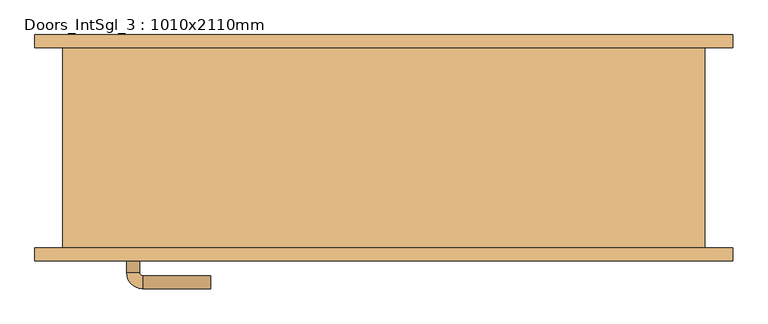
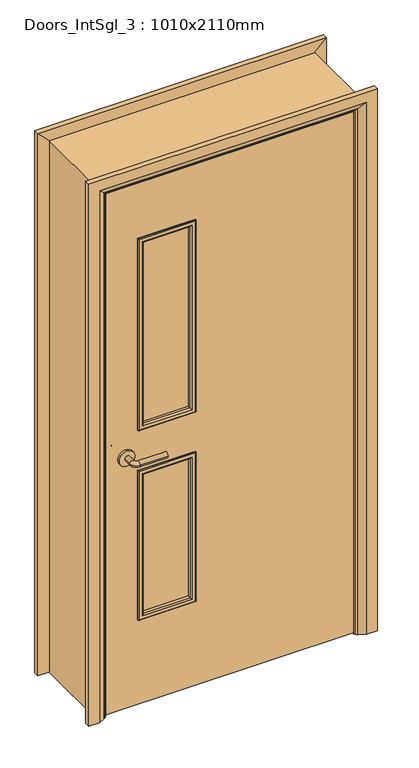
"""IFC4 building model written with IfcOpenShell, lengths in millimetres: door geometry, Doors_IntSgl_3 : 1010x2110mm."""

from ifc_helpers import new_model, si_unit, point, frame, frame_2d, origin, place, context, project, spatial, polyline, circle_curve, ellipse_curve, trimmed, segment, composite_curve, outline, extrude, faceted_brep, source, transform, mapped, element, save
from ifc_brep_helpers import plane_surface, cylinder_surface, revolved_surface, advanced_brep


def doors_intsgl_3_1010x2110mm_da69ac88(model_context):
    return source(origin(), model_context, "Body", "SolidModel", [
        advanced_brep(
        [(-398.0, -109.0, 1000.0), (-378.0, -109.0, 1000.0), (-398.0, -79.0, 1000.0), (-378.0, -79.0, 1000.0), (-373.0, -74.0, 1000.0), (-373.0, -54.0, 1000.0), (-268.0, -54.0, 1000.0), (-268.0, -74.0, 1000.0)],
        [
            (0, 1, circle_curve(frame((-388.0, -109.0, 1000.0), z_axis=(0.0, -1.0, 0.0), x_axis=(1.0, 0.0, 0.0)), 10.0)),
            (1, 0, circle_curve(frame((-388.0, -109.0, 1000.0), z_axis=(0.0, -1.0, 0.0), x_axis=(1.0, 0.0, 0.0)), 10.0)),
            (0, 2),
            (2, 3, circle_curve(frame((-388.0, -79.0, 1000.0), z_axis=(0.0, -1.0, 0.0), x_axis=(1.0, 0.0, 0.0)), 10.0)),
            (3, 1),
            (3, 2, circle_curve(frame((-388.0, -79.0, 1000.0), z_axis=(0.0, -1.0, 0.0), x_axis=(1.0, 0.0, 0.0)), 10.0)),
            (4, 3, circle_curve(frame((-373.0, -79.0, 1000.0), z_axis=(0.0, 0.0, 1.0), x_axis=(-1.0, 0.0, 0.0)), 5.0)),
            (2, 5, circle_curve(frame((-373.0, -79.0, 1000.0), z_axis=(0.0, 0.0, -1.0), x_axis=(-1.0, 0.0, 0.0)), 25.0)),
            (5, 4, circle_curve(frame((-373.0, -64.0, 1000.0), z_axis=(-1.0, 0.0, 0.0), x_axis=(0.0, -1.0, 0.0)), 10.0)),
            (4, 5, circle_curve(frame((-373.0, -64.0, 1000.0), z_axis=(-1.0, 0.0, 0.0), x_axis=(0.0, -1.0, 0.0)), 10.0)),
            (6, 7, circle_curve(frame((-268.0, -64.0, 1000.0), z_axis=(1.0, 0.0, 0.0), x_axis=(0.0, -1.0, 0.0)), 10.0)),
            (7, 6, circle_curve(frame((-268.0, -64.0, 1000.0), z_axis=(1.0, 0.0, 0.0), x_axis=(0.0, -1.0, 0.0)), 10.0)),
            (5, 6),
            (7, 4),
        ],
        [
            plane_surface(frame((-388.0, -109.0, 1000.0), z_axis=(0.0, -1.0, 0.0), x_axis=(0.0, 0.0, 1.0))),
            cylinder_surface(frame((-388.0, -109.0, 1000.0), z_axis=(0.0, -1.0, 0.0), x_axis=(1.0, 0.0, 0.0)), 10.0),
            revolved_surface(trimmed(ellipse_curve(frame((-388.0, -79.0, 1000.0), z_axis=(0.0, -1.0, 0.0), x_axis=(1.0, 0.0, 0.0)), 10.0, 10.0), [point((-398.0, -79.0, 1000.0))], [point((-378.0, -79.0, 1000.0))], True, "CARTESIAN"), (-373.0, -79.0, 1000.0), (0.0, 0.0, -1.0)),
            revolved_surface(trimmed(ellipse_curve(frame((-388.0, -79.0, 1000.0), z_axis=(0.0, -1.0, 0.0), x_axis=(1.0, 0.0, 0.0)), 10.0, 10.0), [point((-378.0, -79.0, 1000.0))], [point((-398.0, -79.0, 1000.0))], True, "CARTESIAN"), (-373.0, -79.0, 1000.0), (0.0, 0.0, -1.0)),
            plane_surface(frame((-268.0, -64.0, 1000.0), z_axis=(1.0, 0.0, 0.0), x_axis=(0.0, 0.0, 1.0))),
            cylinder_surface(frame((-373.0, -64.0, 1000.0), z_axis=(-1.0, 0.0, 0.0), x_axis=(0.0, -1.0, 0.0)), 10.0),
        ],
        [
            (0, [[1, 2]]),
            (1, [[-1, 3, 4, 5]]),
            (1, [[-2, -5, 6, -3]]),
            (2, [[7, -4, 8, 9]]),
            (3, [[-8, -6, -7, 10]]),
            (4, [[11, 12]]),
            (5, [[-9, 13, -12, 14]]),
            (5, [[-10, -14, -11, -13]]),
        ],
    ),
        extrude(outline(composite_curve([segment(trimmed(circle_curve(frame_2d((1000.0, -390.5)), 30.0), [point((1000.0, -420.5))], [point((1000.0, -360.5))], False, "CARTESIAN"), True, "CONTINUOUS"), segment(trimmed(circle_curve(frame_2d((1000.0, -390.5)), 30.0), [point((1000.0, -360.5))], [point((1000.0, -420.5))], False, "CARTESIAN"), True, "CONTINUOUS")], self_intersect=False)), frame((0.0, -117.0, 0.0), z_axis=(0.0, 1.0, 0.0), x_axis=(0.0, 0.0, 1.0)), (0.0, 0.0, 1.0), 8.0),
        advanced_brep(
        [(-398.0, -163.0, 1000.0), (-378.0, -163.0, 1000.0), (-378.0, -193.0, 1000.0), (-398.0, -193.0, 1000.0), (-373.0, -198.0, 1000.0), (-373.0, -218.0, 1000.0), (-268.0, -218.0, 1000.0), (-268.0, -198.0, 1000.0)],
        [
            (0, 1, circle_curve(frame((-388.0, -163.0, 1000.0), z_axis=(0.0, 1.0, 0.0), x_axis=(1.0, 0.0, 0.0)), 10.0)),
            (1, 0, circle_curve(frame((-388.0, -163.0, 1000.0), z_axis=(0.0, 1.0, 0.0), x_axis=(1.0, 0.0, 0.0)), 10.0)),
            (1, 2),
            (2, 3, circle_curve(frame((-388.0, -193.0, 1000.0), z_axis=(0.0, 1.0, 0.0), x_axis=(1.0, 0.0, 0.0)), 10.0)),
            (3, 0),
            (3, 2, circle_curve(frame((-388.0, -193.0, 1000.0), z_axis=(0.0, 1.0, 0.0), x_axis=(1.0, 0.0, 0.0)), 10.0)),
            (4, 5, circle_curve(frame((-373.0, -208.0, 1000.0), z_axis=(-1.0, 0.0, 0.0), x_axis=(0.0, 1.0, 0.0)), 10.0)),
            (5, 3, circle_curve(frame((-373.0, -193.0, 1000.0), z_axis=(0.0, 0.0, -1.0), x_axis=(-1.0, 0.0, 0.0)), 25.0)),
            (2, 4, circle_curve(frame((-373.0, -193.0, 1000.0), z_axis=(0.0, 0.0, 1.0), x_axis=(-1.0, 0.0, 0.0)), 5.0)),
            (5, 4, circle_curve(frame((-373.0, -208.0, 1000.0), z_axis=(-1.0, 0.0, 0.0), x_axis=(0.0, 1.0, 0.0)), 10.0)),
            (6, 7, circle_curve(frame((-268.0, -208.0, 1000.0), z_axis=(1.0, 0.0, 0.0), x_axis=(0.0, 1.0, 0.0)), 10.0)),
            (7, 6, circle_curve(frame((-268.0, -208.0, 1000.0), z_axis=(1.0, 0.0, 0.0), x_axis=(0.0, 1.0, 0.0)), 10.0)),
            (4, 7),
            (6, 5),
        ],
        [
            plane_surface(frame((-388.0, -163.0, 1000.0), z_axis=(0.0, 1.0, 0.0), x_axis=(0.0, 0.0, 1.0))),
            cylinder_surface(frame((-388.0, -163.0, 1000.0), z_axis=(0.0, 1.0, 0.0), x_axis=(1.0, 0.0, 0.0)), 10.0),
            revolved_surface(trimmed(ellipse_curve(frame((-388.0, -193.0, 1000.0), z_axis=(0.0, -1.0, 0.0), x_axis=(1.0, 0.0, 0.0)), 10.0, 10.0), [point((-398.0, -193.0, 1000.0))], [point((-378.0, -193.0, 1000.0))], True, "CARTESIAN"), (-373.0, -193.0, 1000.0), (0.0, 0.0, -1.0)),
            revolved_surface(trimmed(ellipse_curve(frame((-388.0, -193.0, 1000.0), z_axis=(0.0, -1.0, 0.0), x_axis=(1.0, 0.0, 0.0)), 10.0, 10.0), [point((-378.0, -193.0, 1000.0))], [point((-398.0, -193.0, 1000.0))], True, "CARTESIAN"), (-373.0, -193.0, 1000.0), (0.0, 0.0, -1.0)),
            plane_surface(frame((-268.0, -208.0, 1000.0), z_axis=(1.0, 0.0, 0.0), x_axis=(0.0, 0.0, 1.0))),
            cylinder_surface(frame((-373.0, -208.0, 1000.0), z_axis=(-1.0, 0.0, 0.0), x_axis=(0.0, 1.0, 0.0)), 10.0),
        ],
        [
            (0, [[1, 2]]),
            (1, [[3, 4, 5, -2]]),
            (1, [[-5, 6, -3, -1]]),
            (2, [[7, 8, -4, 9]]),
            (3, [[10, -9, -6, -8]]),
            (4, [[11, 12]]),
            (5, [[13, -11, 14, -7]]),
            (5, [[-14, -12, -13, -10]]),
        ],
    ),
        extrude(outline(composite_curve([segment(trimmed(circle_curve(frame_2d((1000.0, -390.5)), 30.0), [point((1000.0, -420.5))], [point((1000.0, -360.5))], False, "CARTESIAN"), True, "CONTINUOUS"), segment(trimmed(circle_curve(frame_2d((1000.0, -390.5)), 30.0), [point((1000.0, -360.5))], [point((1000.0, -420.5))], False, "CARTESIAN"), True, "CONTINUOUS")], self_intersect=False)), frame((0.0, -163.0, 0.0), z_axis=(0.0, 1.0, 0.0), x_axis=(0.0, 0.0, 1.0)), (0.0, 0.0, 1.0), 8.0),
        extrude(outline(polyline([(2068.0, -463.0), (8.0, -463.0), (8.0, 463.0), (2068.0, 463.0), (2068.0, -463.0)]), holes=[polyline([(1843.0, -138.0), (1100.0, -138.0), (1100.0, -338.0), (1843.0, -338.0), (1843.0, -138.0)]), polyline([(925.0, -338.0), (925.0, -138.0), (350.0, -138.0), (350.0, -338.0), (925.0, -338.0)])]), frame((0.0, -155.0, 0.0), z_axis=(0.0, 1.0, 0.0), x_axis=(0.0, 0.0, 1.0)), (0.0, 0.0, 1.0), 38.0),
        advanced_brep(
        [(540.0, -175.0, 0.0), (500.0, -175.0, 0.0), (474.0, -161.0, 0.0), (470.0, -155.0, 0.0), (540.0, -155.0, 0.0), (540.0, -155.0, 2145.0), (540.0, -175.0, 2145.0), (470.0, -155.0, 2075.0), (-470.0, -155.0, 2075.0), (-470.0, -155.0, 0.0), (-540.0, -155.0, 0.0), (-540.0, -155.0, 2145.0), (474.0, -161.0, 2079.0), (500.0, -175.0, 2105.0), (-540.0, -175.0, 2145.0), (-540.0, -175.0, 0.0), (-500.0, -175.0, 0.0), (-500.0, -175.0, 2105.0), (-474.0, -161.0, 0.0), (-474.0, -161.0, 2079.0)],
        [
            (0, 1),
            (1, 2),
            (2, 3, circle_curve(frame((478.0, -154.0, 0.0), z_axis=(0.0, 0.0, -1.0), x_axis=(1.0, 0.0, 0.0)), 8.0622577)),
            (3, 4),
            (4, 0),
            (4, 5),
            (5, 6),
            (6, 0),
            (3, 7),
            (7, 8),
            (8, 9),
            (9, 10),
            (10, 11),
            (11, 5),
            (2, 12),
            (12, 7, ellipse_curve(frame((478.0, -154.0, 2083.0), z_axis=(0.7071067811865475, 0.0, -0.7071067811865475), x_axis=(-0.7071067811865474, 0.0, -0.7071067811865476)), 11.4017543, 8.0622577)),
            (1, 13),
            (13, 12),
            (6, 14),
            (14, 15),
            (15, 16),
            (16, 17),
            (17, 13),
            (10, 15),
            (14, 11),
            (9, 18, circle_curve(frame((-478.0, -154.0, 0.0), z_axis=(0.0, 0.0, -1.0), x_axis=(-1.0, 0.0, 0.0)), 8.0622577)),
            (18, 16),
            (19, 18),
            (8, 19, ellipse_curve(frame((-478.0, -154.0, 2083.0), z_axis=(-0.7071067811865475, 0.0, -0.7071067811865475), x_axis=(-0.7071067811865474, 0.0, 0.7071067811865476)), 11.4017543, 8.0622577)),
            (19, 17),
            (12, 19),
        ],
        [
            plane_surface(frame((470.0, -155.0, 0.0), z_axis=(0.0, 0.0, -1.0), x_axis=(0.0, 1.0, 0.0))),
            plane_surface(frame((540.0, -175.0, 0.0), z_axis=(1.0, 0.0, 0.0), x_axis=(0.0, 0.0, 1.0))),
            plane_surface(frame((540.0, -155.0, 0.0), z_axis=(0.0, 1.0, 0.0), x_axis=(0.0, 0.0, 1.0))),
            cylinder_surface(frame((478.0, -154.0, 0.0), z_axis=(0.0, 0.0, -1.0), x_axis=(1.0, 0.0, 0.0)), 8.0622577),
            plane_surface(frame((474.0, -161.0, 0.0), z_axis=(-0.4740998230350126, -0.8804710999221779, 0.0), x_axis=(0.0, 0.0, 1.0))),
            plane_surface(frame((500.0, -175.0, 0.0), z_axis=(0.0, -1.0, 0.0), x_axis=(0.0, 0.0, 1.0))),
            plane_surface(frame((-540.0, -175.0, 2145.0), z_axis=(-1.0, 0.0, 0.0), x_axis=(0.0, 0.0, -1.0))),
            plane_surface(frame((-470.0, -155.0, 0.0), z_axis=(0.0, 0.0, -1.0), x_axis=(0.0, 1.0, 0.0))),
            cylinder_surface(frame((-478.0, -154.0, 2075.0), z_axis=(0.0, 0.0, 1.0), x_axis=(-1.0, 0.0, 0.0)), 8.0622577),
            plane_surface(frame((-474.0, -161.0, 2079.0), z_axis=(0.4740998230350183, -0.8804710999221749, 0.0), x_axis=(0.0, 0.0, -1.0))),
            plane_surface(frame((540.0, -175.0, 2145.0), z_axis=(0.0, 0.0, 1.0), x_axis=(-1.0, 0.0, 0.0))),
            cylinder_surface(frame((470.0, -154.0, 2083.0), z_axis=(1.0, 0.0, 0.0), x_axis=(0.0, 0.0, 1.0)), 8.0622577),
            plane_surface(frame((474.0, -161.0, 2079.0), z_axis=(0.0, -0.8804710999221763, -0.4740998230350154), x_axis=(-1.0, 0.0, 0.0))),
        ],
        [
            (0, [[1, 2, 3, 4, 5]]),
            (1, [[6, 7, 8, -5]]),
            (2, [[9, 10, 11, 12, 13, 14, -6, -4]]),
            (3, [[15, 16, -9, -3]]),
            (4, [[17, 18, -15, -2]]),
            (5, [[-8, 19, 20, 21, 22, 23, -17, -1]]),
            (6, [[-13, 24, -20, 25]]),
            (7, [[-24, -12, 26, 27, -21]]),
            (8, [[28, -26, -11, 29]]),
            (9, [[-22, -27, -28, 30]]),
            (10, [[-14, -25, -19, -7]]),
            (11, [[31, -29, -10, -16]]),
            (12, [[-23, -30, -31, -18]]),
        ],
    ),
        extrude(outline(polyline([(0.0, -446.0), (2051.0, -446.0), (2051.0, 446.0), (0.0, 446.0), (0.0, 465.0), (2070.0, 465.0), (2070.0, -465.0), (0.0, -465.0), (0.0, -446.0)])), frame((0.0, -115.0, 0.0), z_axis=(0.0, 1.0, 0.0), x_axis=(0.0, 0.0, 1.0)), (0.0, 0.0, 1.0), 32.0),
        advanced_brep(
        [(-540.0, 175.0, 0.0), (-500.0, 175.0, 0.0), (-474.0, 161.0, 0.0), (-470.0, 155.0, 0.0), (-540.0, 155.0, 0.0), (-540.0, 155.0, 2145.0), (-540.0, 175.0, 2145.0), (-470.0, 155.0, 2075.0), (-474.0, 161.0, 2079.0), (-500.0, 175.0, 2105.0), (540.0, 175.0, 0.0), (540.0, 155.0, 0.0), (470.0, 155.0, 0.0), (474.0, 161.0, 0.0), (500.0, 175.0, 0.0), (540.0, 175.0, 2145.0), (500.0, 175.0, 2105.0), (474.0, 161.0, 2079.0), (470.0, 155.0, 2075.0), (540.0, 155.0, 2145.0)],
        [
            (0, 1),
            (1, 2),
            (2, 3, circle_curve(frame((-478.0, 154.0, 0.0), z_axis=(0.0, 0.0, -1.0), x_axis=(-1.0, 0.0, 0.0)), 8.0622577)),
            (3, 4),
            (4, 0),
            (4, 5),
            (5, 6),
            (6, 0),
            (3, 7),
            (7, 5),
            (2, 8),
            (8, 7, ellipse_curve(frame((-478.0, 154.0, 2083.0), z_axis=(-0.7071067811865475, 0.0, -0.7071067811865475), x_axis=(0.7071067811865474, 0.0, -0.7071067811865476)), 11.4017543, 8.0622577)),
            (1, 9),
            (9, 8),
            (6, 9),
            (10, 11),
            (11, 12),
            (12, 13, circle_curve(frame((478.0, 154.0, 0.0), z_axis=(0.0, 0.0, -1.0), x_axis=(1.0, 0.0, 0.0)), 8.0622577)),
            (13, 14),
            (14, 10),
            (15, 10),
            (14, 16),
            (16, 15),
            (13, 17),
            (17, 16),
            (12, 18),
            (18, 17, ellipse_curve(frame((478.0, 154.0, 2083.0), z_axis=(0.7071067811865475, 0.0, -0.7071067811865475), x_axis=(0.7071067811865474, 0.0, 0.7071067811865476)), 11.4017543, 8.0622577)),
            (11, 19),
            (19, 18),
            (15, 19),
            (5, 19),
            (15, 6),
            (7, 18),
            (8, 17),
            (9, 16),
        ],
        [
            plane_surface(frame((-470.0, 227.8010989, 0.0), z_axis=(0.0, 0.0, -1.0), x_axis=(1.0, 0.0, 0.0))),
            plane_surface(frame((-540.0, 175.0, 0.0), z_axis=(-1.0, 0.0, 0.0), x_axis=(0.0, 0.0, 1.0))),
            plane_surface(frame((-540.0, 155.0, 0.0), z_axis=(0.0, -1.0, 0.0), x_axis=(0.0, 0.0, 1.0))),
            cylinder_surface(frame((-478.0, 154.0, 0.0), z_axis=(0.0, 0.0, -1.0), x_axis=(-1.0, 0.0, 0.0)), 8.0622577),
            plane_surface(frame((-474.0, 161.0, 0.0), z_axis=(0.4740998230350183, 0.8804710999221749, 0.0), x_axis=(0.0, 0.0, 1.0))),
            plane_surface(frame((-500.0, 175.0, 0.0), z_axis=(0.0, 1.0, 0.0), x_axis=(0.0, 0.0, 1.0))),
            plane_surface(frame((470.0, 227.8010989, 0.0), z_axis=(0.0, 0.0, -1.0), x_axis=(-1.0, 0.0, 0.0))),
            plane_surface(frame((500.0, 175.0, 2105.0), z_axis=(0.0, 1.0, 0.0), x_axis=(0.0, 0.0, -1.0))),
            plane_surface(frame((474.0, 161.0, 2079.0), z_axis=(-0.4740998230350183, 0.8804710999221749, 0.0), x_axis=(0.0, 0.0, -1.0))),
            cylinder_surface(frame((478.0, 154.0, 2075.0), z_axis=(0.0, 0.0, 1.0), x_axis=(1.0, 0.0, 0.0)), 8.0622577),
            plane_surface(frame((540.0, 155.0, 2145.0), z_axis=(0.0, -1.0, 0.0), x_axis=(0.0, 0.0, -1.0))),
            plane_surface(frame((540.0, 175.0, 2145.0), z_axis=(1.0, 0.0, 0.0), x_axis=(0.0, 0.0, -1.0))),
            plane_surface(frame((-540.0, 175.0, 2145.0), z_axis=(0.0, 0.0, 1.0), x_axis=(1.0, 0.0, 0.0))),
            plane_surface(frame((-540.0, 155.0, 2145.0), z_axis=(0.0, -1.0, 0.0), x_axis=(1.0, 0.0, 0.0))),
            cylinder_surface(frame((-470.0, 154.0, 2083.0), z_axis=(-1.0, 0.0, 0.0), x_axis=(0.0, 0.0, 1.0)), 8.0622577),
            plane_surface(frame((-474.0, 161.0, 2079.0), z_axis=(0.0, 0.8804710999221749, -0.4740998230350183), x_axis=(1.0, 0.0, 0.0))),
            plane_surface(frame((-500.0, 175.0, 2105.0), z_axis=(0.0, 1.0, 0.0), x_axis=(1.0, 0.0, 0.0))),
        ],
        [
            (0, [[1, 2, 3, 4, 5]]),
            (1, [[6, 7, 8, -5]]),
            (2, [[9, 10, -6, -4]]),
            (3, [[11, 12, -9, -3]]),
            (4, [[13, 14, -11, -2]]),
            (5, [[-8, 15, -13, -1]]),
            (6, [[16, 17, 18, 19, 20]]),
            (7, [[21, -20, 22, 23]]),
            (8, [[-22, -19, 24, 25]]),
            (9, [[-24, -18, 26, 27]]),
            (10, [[-26, -17, 28, 29]]),
            (11, [[-28, -16, -21, 30]]),
            (12, [[31, -30, 32, -7]]),
            (13, [[33, -29, -31, -10]]),
            (14, [[34, -27, -33, -12]]),
            (15, [[35, -25, -34, -14]]),
            (16, [[-32, -23, -35, -15]]),
        ],
    ),
        faceted_brep([(-465.0, -155.0, 0.0), (-497.0, -155.0, 0.0), (-497.0, 155.0, 0.0), (-465.0, 155.0, 0.0), (-465.0, 155.0, 2070.0), (-465.0, -155.0, 2070.0), (-497.0, 155.0, 2102.0), (-497.0, -155.0, 2102.0), (465.0, -155.0, 0.0), (465.0, 155.0, 0.0), (497.0, 155.0, 0.0), (497.0, -155.0, 0.0), (465.0, -155.0, 2070.0), (497.0, -155.0, 2102.0), (497.0, 155.0, 2102.0), (465.0, 155.0, 2070.0)], [[[0, 1, 2, 3]], [[3, 4, 5, 0]], [[2, 6, 4, 3]], [[1, 7, 6, 2]], [[0, 5, 7, 1]], [[8, 9, 10, 11]], [[12, 8, 11, 13]], [[13, 11, 10, 14]], [[14, 10, 9, 15]], [[15, 9, 8, 12]], [[4, 15, 12, 5]], [[6, 14, 15, 4]], [[7, 13, 14, 6]], [[5, 12, 13, 7]]]),
        advanced_brep(
        [(-138.0, -127.0, 925.0), (-138.0, -127.0, 350.0), (-138.0, -117.0, 350.0), (-138.0, -117.0, 925.0), (-150.0, -116.0, 913.0), (-150.0, -116.0, 362.0), (-150.0, -127.0, 362.0), (-150.0, -127.0, 913.0), (-145.0, -111.0, 918.0), (-145.0, -111.0, 357.0), (-130.0, -113.0, 933.0), (-130.0, -113.0, 342.0), (-132.0, -111.0, 344.0), (-132.0, -111.0, 931.0), (-130.0, -117.0, 933.0), (-130.0, -117.0, 342.0), (-338.0, -127.0, 350.0), (-338.0, -117.0, 350.0), (-326.0, -116.0, 362.0), (-326.0, -127.0, 362.0), (-331.0, -111.0, 357.0), (-346.0, -113.0, 342.0), (-344.0, -111.0, 344.0), (-346.0, -117.0, 342.0), (-338.0, -127.0, 925.0), (-338.0, -117.0, 925.0), (-326.0, -116.0, 913.0), (-326.0, -127.0, 913.0), (-331.0, -111.0, 918.0), (-346.0, -113.0, 933.0), (-344.0, -111.0, 931.0), (-346.0, -117.0, 933.0)],
        [
            (0, 1),
            (1, 2),
            (2, 3),
            (3, 0),
            (4, 5),
            (5, 6),
            (6, 7),
            (7, 4),
            (8, 9),
            (9, 5, ellipse_curve(frame((-145.0, -116.0, 357.0), z_axis=(0.7071067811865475, 0.0, 0.7071067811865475), x_axis=(-0.7071067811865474, 0.0, 0.7071067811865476)), 7.0710678, 5.0)),
            (4, 8, ellipse_curve(frame((-145.0, -116.0, 918.0), z_axis=(0.7071067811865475, 0.0, -0.7071067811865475), x_axis=(0.7071067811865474, 0.0, 0.7071067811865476)), 7.0710678, 5.0)),
            (10, 11),
            (11, 12, ellipse_curve(frame((-132.0, -113.0, 344.0), z_axis=(0.7071067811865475, 0.0, 0.7071067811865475), x_axis=(-0.7071067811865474, 0.0, 0.7071067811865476)), 2.8284271, 2.0)),
            (12, 13),
            (13, 10, ellipse_curve(frame((-132.0, -113.0, 931.0), z_axis=(0.7071067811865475, 0.0, -0.7071067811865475), x_axis=(0.7071067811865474, 0.0, 0.7071067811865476)), 2.8284271, 2.0)),
            (14, 15),
            (15, 11),
            (10, 14),
            (1, 16),
            (16, 17),
            (17, 2),
            (5, 18),
            (18, 19),
            (19, 6),
            (9, 20),
            (20, 18, ellipse_curve(frame((-331.0, -116.0, 357.0), z_axis=(0.7071067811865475, 0.0, -0.7071067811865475), x_axis=(0.7071067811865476, 0.0, 0.7071067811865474)), 7.0710678, 5.0)),
            (11, 21),
            (21, 22, ellipse_curve(frame((-344.0, -113.0, 344.0), z_axis=(0.7071067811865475, 0.0, -0.7071067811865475), x_axis=(0.7071067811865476, 0.0, 0.7071067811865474)), 2.8284271, 2.0)),
            (22, 12),
            (15, 23),
            (23, 21),
            (16, 24),
            (24, 25),
            (25, 17),
            (18, 26),
            (26, 27),
            (27, 19),
            (20, 28),
            (28, 26, ellipse_curve(frame((-331.0, -116.0, 918.0), z_axis=(-0.7071067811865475, 0.0, -0.7071067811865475), x_axis=(0.7071067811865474, 0.0, -0.7071067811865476)), 7.0710678, 5.0)),
            (21, 29),
            (29, 30, ellipse_curve(frame((-344.0, -113.0, 931.0), z_axis=(-0.7071067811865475, 0.0, -0.7071067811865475), x_axis=(0.7071067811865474, 0.0, -0.7071067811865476)), 2.8284271, 2.0)),
            (30, 22),
            (23, 31),
            (31, 29),
            (14, 31),
            (25, 3),
            (24, 0),
            (27, 7),
            (26, 4),
            (28, 8),
            (30, 13),
            (29, 10),
        ],
        [
            plane_surface(frame((-138.0, -117.0, 925.0), z_axis=(1.0, 0.0, 0.0), x_axis=(0.0, 0.0, -1.0))),
            plane_surface(frame((-150.0, -127.0, 913.0), z_axis=(-1.0, 0.0, 0.0), x_axis=(0.0, 0.0, -1.0))),
            cylinder_surface(frame((-145.0, -116.0, 925.0), z_axis=(0.0, 0.0, 1.0), x_axis=(1.0, 0.0, 0.0)), 5.0),
            cylinder_surface(frame((-132.0, -113.0, 925.0), z_axis=(0.0, 0.0, 1.0), x_axis=(1.0, 0.0, 0.0)), 2.0),
            plane_surface(frame((-130.0, -113.0, 933.0), z_axis=(1.0, 0.0, 0.0), x_axis=(0.0, 0.0, -1.0))),
            plane_surface(frame((-138.0, -117.0, 350.0), z_axis=(0.0, 0.0, -1.0), x_axis=(-1.0, 0.0, 0.0))),
            plane_surface(frame((-150.0, -127.0, 362.0), z_axis=(0.0, 0.0, 1.0), x_axis=(-1.0, 0.0, 0.0))),
            cylinder_surface(frame((-138.0, -116.0, 357.0), z_axis=(1.0, 0.0, 0.0), x_axis=(0.0, 0.0, -1.0)), 5.0),
            cylinder_surface(frame((-138.0, -113.0, 344.0), z_axis=(1.0, 0.0, 0.0), x_axis=(0.0, 0.0, -1.0)), 2.0),
            plane_surface(frame((-130.0, -113.0, 342.0), z_axis=(0.0, 0.0, -1.0), x_axis=(-1.0, 0.0, 0.0))),
            plane_surface(frame((-338.0, -117.0, 350.0), z_axis=(-1.0, 0.0, 0.0), x_axis=(0.0, 0.0, 1.0))),
            plane_surface(frame((-326.0, -127.0, 362.0), z_axis=(1.0, 0.0, 0.0), x_axis=(0.0, 0.0, 1.0))),
            cylinder_surface(frame((-331.0, -116.0, 350.0), z_axis=(0.0, 0.0, -1.0), x_axis=(-1.0, 0.0, 0.0)), 5.0),
            cylinder_surface(frame((-344.0, -113.0, 350.0), z_axis=(0.0, 0.0, -1.0), x_axis=(-1.0, 0.0, 0.0)), 2.0),
            plane_surface(frame((-346.0, -113.0, 342.0), z_axis=(-1.0, 0.0, 0.0), x_axis=(0.0, 0.0, 1.0))),
            plane_surface(frame((-346.0, -117.0, 933.0), z_axis=(0.0, -1.0, 0.0), x_axis=(1.0, 0.0, 0.0))),
            plane_surface(frame((-338.0, -117.0, 925.0), z_axis=(0.0, 0.0, 1.0), x_axis=(1.0, 0.0, 0.0))),
            plane_surface(frame((-338.0, -127.0, 925.0), z_axis=(0.0, -1.0, 0.0), x_axis=(1.0, 0.0, 0.0))),
            plane_surface(frame((-326.0, -127.0, 913.0), z_axis=(0.0, 0.0, -1.0), x_axis=(1.0, 0.0, 0.0))),
            cylinder_surface(frame((-338.0, -116.0, 918.0), z_axis=(-1.0, 0.0, 0.0), x_axis=(0.0, 0.0, 1.0)), 5.0),
            plane_surface(frame((-331.0, -111.0, 918.0), z_axis=(0.0, 1.0, 0.0), x_axis=(1.0, 0.0, 0.0))),
            cylinder_surface(frame((-338.0, -113.0, 931.0), z_axis=(-1.0, 0.0, 0.0), x_axis=(0.0, 0.0, 1.0)), 2.0),
            plane_surface(frame((-346.0, -113.0, 933.0), z_axis=(0.0, 0.0, 1.0), x_axis=(1.0, 0.0, 0.0))),
        ],
        [
            (0, [[1, 2, 3, 4]]),
            (1, [[5, 6, 7, 8]]),
            (2, [[9, 10, -5, 11]]),
            (3, [[12, 13, 14, 15]]),
            (4, [[16, 17, -12, 18]]),
            (5, [[19, 20, 21, -2]]),
            (6, [[22, 23, 24, -6]]),
            (7, [[25, 26, -22, -10]]),
            (8, [[27, 28, 29, -13]]),
            (9, [[30, 31, -27, -17]]),
            (10, [[32, 33, 34, -20]]),
            (11, [[35, 36, 37, -23]]),
            (12, [[38, 39, -35, -26]]),
            (13, [[40, 41, 42, -28]]),
            (14, [[43, 44, -40, -31]]),
            (15, [[-16, 45, -43, -30], [-3, -21, -34, 46]]),
            (16, [[47, -4, -46, -33]]),
            (17, [[-1, -47, -32, -19], [-7, -24, -37, 48]]),
            (18, [[49, -8, -48, -36]]),
            (19, [[50, -11, -49, -39]]),
            (20, [[-14, -29, -42, 51], [-9, -50, -38, -25]]),
            (21, [[52, -15, -51, -41]]),
            (22, [[-45, -18, -52, -44]]),
        ],
    ),
        advanced_brep(
        [(-338.0, -145.0, 925.0), (-338.0, -145.0, 350.0), (-338.0, -155.0, 350.0), (-338.0, -155.0, 925.0), (-326.0, -156.0, 913.0), (-326.0, -156.0, 362.0), (-326.0, -145.0, 362.0), (-326.0, -145.0, 913.0), (-331.0, -161.0, 918.0), (-331.0, -161.0, 357.0), (-346.0, -159.0, 933.0), (-346.0, -159.0, 342.0), (-344.0, -161.0, 344.0), (-344.0, -161.0, 931.0), (-346.0, -155.0, 933.0), (-346.0, -155.0, 342.0), (-138.0, -145.0, 350.0), (-138.0, -155.0, 350.0), (-150.0, -156.0, 362.0), (-150.0, -145.0, 362.0), (-145.0, -161.0, 357.0), (-130.0, -159.0, 342.0), (-132.0, -161.0, 344.0), (-130.0, -155.0, 342.0), (-138.0, -145.0, 925.0), (-138.0, -155.0, 925.0), (-150.0, -156.0, 913.0), (-150.0, -145.0, 913.0), (-145.0, -161.0, 918.0), (-130.0, -159.0, 933.0), (-132.0, -161.0, 931.0), (-130.0, -155.0, 933.0)],
        [
            (0, 1),
            (1, 2),
            (2, 3),
            (3, 0),
            (4, 5),
            (5, 6),
            (6, 7),
            (7, 4),
            (8, 9),
            (9, 5, ellipse_curve(frame((-331.0, -156.0, 357.0), z_axis=(-0.7071067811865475, 0.0, 0.7071067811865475), x_axis=(0.7071067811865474, 0.0, 0.7071067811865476)), 7.0710678, 5.0)),
            (4, 8, ellipse_curve(frame((-331.0, -156.0, 918.0), z_axis=(-0.7071067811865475, 0.0, -0.7071067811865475), x_axis=(-0.7071067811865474, 0.0, 0.7071067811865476)), 7.0710678, 5.0)),
            (10, 11),
            (11, 12, ellipse_curve(frame((-344.0, -159.0, 344.0), z_axis=(-0.7071067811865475, 0.0, 0.7071067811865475), x_axis=(0.7071067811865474, 0.0, 0.7071067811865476)), 2.8284271, 2.0)),
            (12, 13),
            (13, 10, ellipse_curve(frame((-344.0, -159.0, 931.0), z_axis=(-0.7071067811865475, 0.0, -0.7071067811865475), x_axis=(-0.7071067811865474, 0.0, 0.7071067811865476)), 2.8284271, 2.0)),
            (14, 15),
            (15, 11),
            (10, 14),
            (1, 16),
            (16, 17),
            (17, 2),
            (5, 18),
            (18, 19),
            (19, 6),
            (9, 20),
            (20, 18, ellipse_curve(frame((-145.0, -156.0, 357.0), z_axis=(-0.7071067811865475, 0.0, -0.7071067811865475), x_axis=(-0.7071067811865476, 0.0, 0.7071067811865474)), 7.0710678, 5.0)),
            (11, 21),
            (21, 22, ellipse_curve(frame((-132.0, -159.0, 344.0), z_axis=(-0.7071067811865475, 0.0, -0.7071067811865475), x_axis=(-0.7071067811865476, 0.0, 0.7071067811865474)), 2.8284271, 2.0)),
            (22, 12),
            (15, 23),
            (23, 21),
            (16, 24),
            (24, 25),
            (25, 17),
            (18, 26),
            (26, 27),
            (27, 19),
            (20, 28),
            (28, 26, ellipse_curve(frame((-145.0, -156.0, 918.0), z_axis=(0.7071067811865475, 0.0, -0.7071067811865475), x_axis=(-0.7071067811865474, 0.0, -0.7071067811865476)), 7.0710678, 5.0)),
            (21, 29),
            (29, 30, ellipse_curve(frame((-132.0, -159.0, 931.0), z_axis=(0.7071067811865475, 0.0, -0.7071067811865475), x_axis=(-0.7071067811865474, 0.0, -0.7071067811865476)), 2.8284271, 2.0)),
            (30, 22),
            (23, 31),
            (31, 29),
            (14, 31),
            (25, 3),
            (24, 0),
            (27, 7),
            (26, 4),
            (28, 8),
            (30, 13),
            (29, 10),
        ],
        [
            plane_surface(frame((-338.0, -155.0, 925.0), z_axis=(-1.0, 0.0, 0.0), x_axis=(0.0, 0.0, -1.0))),
            plane_surface(frame((-326.0, -145.0, 913.0), z_axis=(1.0, 0.0, 0.0), x_axis=(0.0, 0.0, -1.0))),
            cylinder_surface(frame((-331.0, -156.0, 925.0), z_axis=(0.0, 0.0, 1.0), x_axis=(-1.0, 0.0, 0.0)), 5.0),
            cylinder_surface(frame((-344.0, -159.0, 925.0), z_axis=(0.0, 0.0, 1.0), x_axis=(-1.0, 0.0, 0.0)), 2.0),
            plane_surface(frame((-346.0, -159.0, 933.0), z_axis=(-1.0, 0.0, 0.0), x_axis=(0.0, 0.0, -1.0))),
            plane_surface(frame((-338.0, -155.0, 350.0), z_axis=(0.0, 0.0, -1.0), x_axis=(1.0, 0.0, 0.0))),
            plane_surface(frame((-326.0, -145.0, 362.0), z_axis=(0.0, 0.0, 1.0), x_axis=(1.0, 0.0, 0.0))),
            cylinder_surface(frame((-338.0, -156.0, 357.0), z_axis=(-1.0, 0.0, 0.0), x_axis=(0.0, 0.0, -1.0)), 5.0),
            cylinder_surface(frame((-338.0, -159.0, 344.0), z_axis=(-1.0, 0.0, 0.0), x_axis=(0.0, 0.0, -1.0)), 2.0),
            plane_surface(frame((-346.0, -159.0, 342.0), z_axis=(0.0, 0.0, -1.0), x_axis=(1.0, 0.0, 0.0))),
            plane_surface(frame((-138.0, -155.0, 350.0), z_axis=(1.0, 0.0, 0.0), x_axis=(0.0, 0.0, 1.0))),
            plane_surface(frame((-150.0, -145.0, 362.0), z_axis=(-1.0, 0.0, 0.0), x_axis=(0.0, 0.0, 1.0))),
            cylinder_surface(frame((-145.0, -156.0, 350.0), z_axis=(0.0, 0.0, -1.0), x_axis=(1.0, 0.0, 0.0)), 5.0),
            cylinder_surface(frame((-132.0, -159.0, 350.0), z_axis=(0.0, 0.0, -1.0), x_axis=(1.0, 0.0, 0.0)), 2.0),
            plane_surface(frame((-130.0, -159.0, 342.0), z_axis=(1.0, 0.0, 0.0), x_axis=(0.0, 0.0, 1.0))),
            plane_surface(frame((-130.0, -155.0, 933.0), z_axis=(0.0, 1.0, 0.0), x_axis=(-1.0, 0.0, 0.0))),
            plane_surface(frame((-138.0, -155.0, 925.0), z_axis=(0.0, 0.0, 1.0), x_axis=(-1.0, 0.0, 0.0))),
            plane_surface(frame((-138.0, -145.0, 925.0), z_axis=(0.0, 1.0, 0.0), x_axis=(-1.0, 0.0, 0.0))),
            plane_surface(frame((-150.0, -145.0, 913.0), z_axis=(0.0, 0.0, -1.0), x_axis=(-1.0, 0.0, 0.0))),
            cylinder_surface(frame((-138.0, -156.0, 918.0), z_axis=(1.0, 0.0, 0.0), x_axis=(0.0, 0.0, 1.0)), 5.0),
            plane_surface(frame((-145.0, -161.0, 918.0), z_axis=(0.0, -1.0, 0.0), x_axis=(-1.0, 0.0, 0.0))),
            cylinder_surface(frame((-138.0, -159.0, 931.0), z_axis=(1.0, 0.0, 0.0), x_axis=(0.0, 0.0, 1.0)), 2.0),
            plane_surface(frame((-130.0, -159.0, 933.0), z_axis=(0.0, 0.0, 1.0), x_axis=(-1.0, 0.0, 0.0))),
        ],
        [
            (0, [[1, 2, 3, 4]]),
            (1, [[5, 6, 7, 8]]),
            (2, [[9, 10, -5, 11]]),
            (3, [[12, 13, 14, 15]]),
            (4, [[16, 17, -12, 18]]),
            (5, [[19, 20, 21, -2]]),
            (6, [[22, 23, 24, -6]]),
            (7, [[25, 26, -22, -10]]),
            (8, [[27, 28, 29, -13]]),
            (9, [[30, 31, -27, -17]]),
            (10, [[32, 33, 34, -20]]),
            (11, [[35, 36, 37, -23]]),
            (12, [[38, 39, -35, -26]]),
            (13, [[40, 41, 42, -28]]),
            (14, [[43, 44, -40, -31]]),
            (15, [[-16, 45, -43, -30], [-3, -21, -34, 46]]),
            (16, [[47, -4, -46, -33]]),
            (17, [[-1, -47, -32, -19], [-7, -24, -37, 48]]),
            (18, [[49, -8, -48, -36]]),
            (19, [[50, -11, -49, -39]]),
            (20, [[-14, -29, -42, 51], [-9, -50, -38, -25]]),
            (21, [[52, -15, -51, -41]]),
            (22, [[-45, -18, -52, -44]]),
        ],
    ),
        extrude(outline(polyline([(-338.0, -145.0), (-338.0, -127.0), (-138.0, -127.0), (-138.0, -145.0), (-338.0, -145.0)])), frame((0.0, 0.0, 1100.0), z_axis=(0.0, 0.0, 1.0), x_axis=(1.0, 0.0, 0.0)), (0.0, 0.0, 1.0), 743.0),
        extrude(outline(polyline([(-338.0, -145.0), (-338.0, -127.0), (-138.0, -127.0), (-138.0, -145.0), (-338.0, -145.0)])), frame((0.0, 0.0, 350.0), z_axis=(0.0, 0.0, 1.0), x_axis=(1.0, 0.0, 0.0)), (0.0, 0.0, 1.0), 575.0),
        advanced_brep(
        [(-138.0, -127.0, 1843.0), (-138.0, -127.0, 1100.0), (-138.0, -117.0, 1100.0), (-138.0, -117.0, 1843.0), (-150.0, -116.0, 1831.0), (-150.0, -116.0, 1112.0), (-150.0, -127.0, 1112.0), (-150.0, -127.0, 1831.0), (-145.0, -111.0, 1836.0), (-145.0, -111.0, 1107.0), (-130.0, -113.0, 1851.0), (-130.0, -113.0, 1092.0), (-132.0, -111.0, 1094.0), (-132.0, -111.0, 1849.0), (-130.0, -117.0, 1851.0), (-130.0, -117.0, 1092.0), (-338.0, -127.0, 1100.0), (-338.0, -117.0, 1100.0), (-326.0, -116.0, 1112.0), (-326.0, -127.0, 1112.0), (-331.0, -111.0, 1107.0), (-346.0, -113.0, 1092.0), (-344.0, -111.0, 1094.0), (-346.0, -117.0, 1092.0), (-338.0, -127.0, 1843.0), (-338.0, -117.0, 1843.0), (-326.0, -116.0, 1831.0), (-326.0, -127.0, 1831.0), (-331.0, -111.0, 1836.0), (-346.0, -113.0, 1851.0), (-344.0, -111.0, 1849.0), (-346.0, -117.0, 1851.0)],
        [
            (0, 1),
            (1, 2),
            (2, 3),
            (3, 0),
            (4, 5),
            (5, 6),
            (6, 7),
            (7, 4),
            (8, 9),
            (9, 5, ellipse_curve(frame((-145.0, -116.0, 1107.0), z_axis=(0.7071067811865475, 0.0, 0.7071067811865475), x_axis=(-0.7071067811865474, 0.0, 0.7071067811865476)), 7.0710678, 5.0)),
            (4, 8, ellipse_curve(frame((-145.0, -116.0, 1836.0), z_axis=(0.7071067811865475, 0.0, -0.7071067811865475), x_axis=(0.7071067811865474, 0.0, 0.7071067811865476)), 7.0710678, 5.0)),
            (10, 11),
            (11, 12, ellipse_curve(frame((-132.0, -113.0, 1094.0), z_axis=(0.7071067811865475, 0.0, 0.7071067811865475), x_axis=(-0.7071067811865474, 0.0, 0.7071067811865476)), 2.8284271, 2.0)),
            (12, 13),
            (13, 10, ellipse_curve(frame((-132.0, -113.0, 1849.0), z_axis=(0.7071067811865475, 0.0, -0.7071067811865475), x_axis=(0.7071067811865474, 0.0, 0.7071067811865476)), 2.8284271, 2.0)),
            (14, 15),
            (15, 11),
            (10, 14),
            (1, 16),
            (16, 17),
            (17, 2),
            (5, 18),
            (18, 19),
            (19, 6),
            (9, 20),
            (20, 18, ellipse_curve(frame((-331.0, -116.0, 1107.0), z_axis=(0.7071067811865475, 0.0, -0.7071067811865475), x_axis=(0.7071067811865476, 0.0, 0.7071067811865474)), 7.0710678, 5.0)),
            (11, 21),
            (21, 22, ellipse_curve(frame((-344.0, -113.0, 1094.0), z_axis=(0.7071067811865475, 0.0, -0.7071067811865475), x_axis=(0.7071067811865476, 0.0, 0.7071067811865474)), 2.8284271, 2.0)),
            (22, 12),
            (15, 23),
            (23, 21),
            (16, 24),
            (24, 25),
            (25, 17),
            (18, 26),
            (26, 27),
            (27, 19),
            (20, 28),
            (28, 26, ellipse_curve(frame((-331.0, -116.0, 1836.0), z_axis=(-0.7071067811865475, 0.0, -0.7071067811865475), x_axis=(0.7071067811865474, 0.0, -0.7071067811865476)), 7.0710678, 5.0)),
            (21, 29),
            (29, 30, ellipse_curve(frame((-344.0, -113.0, 1849.0), z_axis=(-0.7071067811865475, 0.0, -0.7071067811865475), x_axis=(0.7071067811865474, 0.0, -0.7071067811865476)), 2.8284271, 2.0)),
            (30, 22),
            (23, 31),
            (31, 29),
            (14, 31),
            (25, 3),
            (24, 0),
            (27, 7),
            (26, 4),
            (28, 8),
            (30, 13),
            (29, 10),
        ],
        [
            plane_surface(frame((-138.0, -117.0, 1843.0), z_axis=(1.0, 0.0, 0.0), x_axis=(0.0, 0.0, -1.0))),
            plane_surface(frame((-150.0, -127.0, 1831.0), z_axis=(-1.0, 0.0, 0.0), x_axis=(0.0, 0.0, -1.0))),
            cylinder_surface(frame((-145.0, -116.0, 1843.0), z_axis=(0.0, 0.0, 1.0), x_axis=(1.0, 0.0, 0.0)), 5.0),
            cylinder_surface(frame((-132.0, -113.0, 1843.0), z_axis=(0.0, 0.0, 1.0), x_axis=(1.0, 0.0, 0.0)), 2.0),
            plane_surface(frame((-130.0, -113.0, 1851.0), z_axis=(1.0, 0.0, 0.0), x_axis=(0.0, 0.0, -1.0))),
            plane_surface(frame((-138.0, -117.0, 1100.0), z_axis=(0.0, 0.0, -1.0), x_axis=(-1.0, 0.0, 0.0))),
            plane_surface(frame((-150.0, -127.0, 1112.0), z_axis=(0.0, 0.0, 1.0), x_axis=(-1.0, 0.0, 0.0))),
            cylinder_surface(frame((-138.0, -116.0, 1107.0), z_axis=(1.0, 0.0, 0.0), x_axis=(0.0, 0.0, -1.0)), 5.0),
            cylinder_surface(frame((-138.0, -113.0, 1094.0), z_axis=(1.0, 0.0, 0.0), x_axis=(0.0, 0.0, -1.0)), 2.0),
            plane_surface(frame((-130.0, -113.0, 1092.0), z_axis=(0.0, 0.0, -1.0), x_axis=(-1.0, 0.0, 0.0))),
            plane_surface(frame((-338.0, -117.0, 1100.0), z_axis=(-1.0, 0.0, 0.0), x_axis=(0.0, 0.0, 1.0))),
            plane_surface(frame((-326.0, -127.0, 1112.0), z_axis=(1.0, 0.0, 0.0), x_axis=(0.0, 0.0, 1.0))),
            cylinder_surface(frame((-331.0, -116.0, 1100.0), z_axis=(0.0, 0.0, -1.0), x_axis=(-1.0, 0.0, 0.0)), 5.0),
            cylinder_surface(frame((-344.0, -113.0, 1100.0), z_axis=(0.0, 0.0, -1.0), x_axis=(-1.0, 0.0, 0.0)), 2.0),
            plane_surface(frame((-346.0, -113.0, 1092.0), z_axis=(-1.0, 0.0, 0.0), x_axis=(0.0, 0.0, 1.0))),
            plane_surface(frame((-346.0, -117.0, 1851.0), z_axis=(0.0, -1.0, 0.0), x_axis=(1.0, 0.0, 0.0))),
            plane_surface(frame((-338.0, -117.0, 1843.0), z_axis=(0.0, 0.0, 1.0), x_axis=(1.0, 0.0, 0.0))),
            plane_surface(frame((-338.0, -127.0, 1843.0), z_axis=(0.0, -1.0, 0.0), x_axis=(1.0, 0.0, 0.0))),
            plane_surface(frame((-326.0, -127.0, 1831.0), z_axis=(0.0, 0.0, -1.0), x_axis=(1.0, 0.0, 0.0))),
            cylinder_surface(frame((-338.0, -116.0, 1836.0), z_axis=(-1.0, 0.0, 0.0), x_axis=(0.0, 0.0, 1.0)), 5.0),
            plane_surface(frame((-331.0, -111.0, 1836.0), z_axis=(0.0, 1.0, 0.0), x_axis=(1.0, 0.0, 0.0))),
            cylinder_surface(frame((-338.0, -113.0, 1849.0), z_axis=(-1.0, 0.0, 0.0), x_axis=(0.0, 0.0, 1.0)), 2.0),
            plane_surface(frame((-346.0, -113.0, 1851.0), z_axis=(0.0, 0.0, 1.0), x_axis=(1.0, 0.0, 0.0))),
        ],
        [
            (0, [[1, 2, 3, 4]]),
            (1, [[5, 6, 7, 8]]),
            (2, [[9, 10, -5, 11]]),
            (3, [[12, 13, 14, 15]]),
            (4, [[16, 17, -12, 18]]),
            (5, [[19, 20, 21, -2]]),
            (6, [[22, 23, 24, -6]]),
            (7, [[25, 26, -22, -10]]),
            (8, [[27, 28, 29, -13]]),
            (9, [[30, 31, -27, -17]]),
            (10, [[32, 33, 34, -20]]),
            (11, [[35, 36, 37, -23]]),
            (12, [[38, 39, -35, -26]]),
            (13, [[40, 41, 42, -28]]),
            (14, [[43, 44, -40, -31]]),
            (15, [[-16, 45, -43, -30], [-3, -21, -34, 46]]),
            (16, [[47, -4, -46, -33]]),
            (17, [[-1, -47, -32, -19], [-7, -24, -37, 48]]),
            (18, [[49, -8, -48, -36]]),
            (19, [[50, -11, -49, -39]]),
            (20, [[-14, -29, -42, 51], [-9, -50, -38, -25]]),
            (21, [[52, -15, -51, -41]]),
            (22, [[-45, -18, -52, -44]]),
        ],
    ),
        advanced_brep(
        [(-130.0, -159.0, 1851.0), (-130.0, -159.0, 1092.0), (-130.0, -155.0, 1092.0), (-130.0, -155.0, 1851.0), (-132.0, -161.0, 1849.0), (-132.0, -161.0, 1094.0), (-150.0, -156.0, 1831.0), (-150.0, -156.0, 1112.0), (-145.0, -161.0, 1107.0), (-145.0, -161.0, 1836.0), (-150.0, -145.0, 1831.0), (-150.0, -145.0, 1112.0), (-138.0, -155.0, 1843.0), (-138.0, -155.0, 1100.0), (-138.0, -145.0, 1100.0), (-138.0, -145.0, 1843.0), (-346.0, -159.0, 1092.0), (-346.0, -155.0, 1092.0), (-344.0, -161.0, 1094.0), (-326.0, -156.0, 1112.0), (-331.0, -161.0, 1107.0), (-326.0, -145.0, 1112.0), (-338.0, -155.0, 1100.0), (-338.0, -145.0, 1100.0), (-346.0, -159.0, 1851.0), (-346.0, -155.0, 1851.0), (-344.0, -161.0, 1849.0), (-326.0, -156.0, 1831.0), (-331.0, -161.0, 1836.0), (-326.0, -145.0, 1831.0), (-338.0, -155.0, 1843.0), (-338.0, -145.0, 1843.0)],
        [
            (0, 1),
            (1, 2),
            (2, 3),
            (3, 0),
            (4, 5),
            (5, 1, ellipse_curve(frame((-132.0, -159.0, 1094.0), z_axis=(0.7071067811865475, 0.0, 0.7071067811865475), x_axis=(-0.7071067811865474, 0.0, 0.7071067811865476)), 2.8284271, 2.0)),
            (0, 4, ellipse_curve(frame((-132.0, -159.0, 1849.0), z_axis=(0.7071067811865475, 0.0, -0.7071067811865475), x_axis=(0.7071067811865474, 0.0, 0.7071067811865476)), 2.8284271, 2.0)),
            (6, 7),
            (7, 8, ellipse_curve(frame((-145.0, -156.0, 1107.0), z_axis=(0.7071067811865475, 0.0, 0.7071067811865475), x_axis=(-0.7071067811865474, 0.0, 0.7071067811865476)), 7.0710678, 5.0)),
            (8, 9),
            (9, 6, ellipse_curve(frame((-145.0, -156.0, 1836.0), z_axis=(0.7071067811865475, 0.0, -0.7071067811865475), x_axis=(0.7071067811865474, 0.0, 0.7071067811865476)), 7.0710678, 5.0)),
            (10, 11),
            (11, 7),
            (6, 10),
            (12, 13),
            (13, 14),
            (14, 15),
            (15, 12),
            (1, 16),
            (16, 17),
            (17, 2),
            (5, 18),
            (18, 16, ellipse_curve(frame((-344.0, -159.0, 1094.0), z_axis=(0.7071067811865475, 0.0, -0.7071067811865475), x_axis=(0.7071067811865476, 0.0, 0.7071067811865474)), 2.8284271, 2.0)),
            (7, 19),
            (19, 20, ellipse_curve(frame((-331.0, -156.0, 1107.0), z_axis=(0.7071067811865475, 0.0, -0.7071067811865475), x_axis=(0.7071067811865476, 0.0, 0.7071067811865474)), 7.0710678, 5.0)),
            (20, 8),
            (11, 21),
            (21, 19),
            (13, 22),
            (22, 23),
            (23, 14),
            (16, 24),
            (24, 25),
            (25, 17),
            (18, 26),
            (26, 24, ellipse_curve(frame((-344.0, -159.0, 1849.0), z_axis=(-0.7071067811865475, 0.0, -0.7071067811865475), x_axis=(0.7071067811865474, 0.0, -0.7071067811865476)), 2.8284271, 2.0)),
            (19, 27),
            (27, 28, ellipse_curve(frame((-331.0, -156.0, 1836.0), z_axis=(-0.7071067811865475, 0.0, -0.7071067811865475), x_axis=(0.7071067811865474, 0.0, -0.7071067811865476)), 7.0710678, 5.0)),
            (28, 20),
            (21, 29),
            (29, 27),
            (22, 30),
            (30, 31),
            (31, 23),
            (24, 0),
            (3, 25),
            (26, 4),
            (28, 9),
            (27, 6),
            (29, 10),
            (31, 15),
            (30, 12),
        ],
        [
            plane_surface(frame((-130.0, -155.0, 1851.0), z_axis=(1.0, 0.0, 0.0), x_axis=(0.0, 0.0, -1.0))),
            cylinder_surface(frame((-132.0, -159.0, 1843.0), z_axis=(0.0, 0.0, 1.0), x_axis=(1.0, 0.0, 0.0)), 2.0),
            cylinder_surface(frame((-145.0, -156.0, 1843.0), z_axis=(0.0, 0.0, 1.0), x_axis=(1.0, 0.0, 0.0)), 5.0),
            plane_surface(frame((-150.0, -156.0, 1831.0), z_axis=(-1.0, 0.0, 0.0), x_axis=(0.0, 0.0, -1.0))),
            plane_surface(frame((-138.0, -145.0, 1843.0), z_axis=(1.0, 0.0, 0.0), x_axis=(0.0, 0.0, -1.0))),
            plane_surface(frame((-130.0, -155.0, 1092.0), z_axis=(0.0, 0.0, -1.0), x_axis=(-1.0, 0.0, 0.0))),
            cylinder_surface(frame((-138.0, -159.0, 1094.0), z_axis=(1.0, 0.0, 0.0), x_axis=(0.0, 0.0, -1.0)), 2.0),
            cylinder_surface(frame((-138.0, -156.0, 1107.0), z_axis=(1.0, 0.0, 0.0), x_axis=(0.0, 0.0, -1.0)), 5.0),
            plane_surface(frame((-150.0, -156.0, 1112.0), z_axis=(0.0, 0.0, 1.0), x_axis=(-1.0, 0.0, 0.0))),
            plane_surface(frame((-138.0, -145.0, 1100.0), z_axis=(0.0, 0.0, -1.0), x_axis=(-1.0, 0.0, 0.0))),
            plane_surface(frame((-346.0, -155.0, 1092.0), z_axis=(-1.0, 0.0, 0.0), x_axis=(0.0, 0.0, 1.0))),
            cylinder_surface(frame((-344.0, -159.0, 1100.0), z_axis=(0.0, 0.0, -1.0), x_axis=(-1.0, 0.0, 0.0)), 2.0),
            cylinder_surface(frame((-331.0, -156.0, 1100.0), z_axis=(0.0, 0.0, -1.0), x_axis=(-1.0, 0.0, 0.0)), 5.0),
            plane_surface(frame((-326.0, -156.0, 1112.0), z_axis=(1.0, 0.0, 0.0), x_axis=(0.0, 0.0, 1.0))),
            plane_surface(frame((-338.0, -145.0, 1100.0), z_axis=(-1.0, 0.0, 0.0), x_axis=(0.0, 0.0, 1.0))),
            plane_surface(frame((-346.0, -155.0, 1851.0), z_axis=(0.0, 0.0, 1.0), x_axis=(1.0, 0.0, 0.0))),
            cylinder_surface(frame((-338.0, -159.0, 1849.0), z_axis=(-1.0, 0.0, 0.0), x_axis=(0.0, 0.0, 1.0)), 2.0),
            plane_surface(frame((-344.0, -161.0, 1849.0), z_axis=(0.0, -1.0, 0.0), x_axis=(1.0, 0.0, 0.0))),
            cylinder_surface(frame((-338.0, -156.0, 1836.0), z_axis=(-1.0, 0.0, 0.0), x_axis=(0.0, 0.0, 1.0)), 5.0),
            plane_surface(frame((-326.0, -156.0, 1831.0), z_axis=(0.0, 0.0, -1.0), x_axis=(1.0, 0.0, 0.0))),
            plane_surface(frame((-326.0, -145.0, 1831.0), z_axis=(0.0, 1.0, 0.0), x_axis=(1.0, 0.0, 0.0))),
            plane_surface(frame((-338.0, -145.0, 1843.0), z_axis=(0.0, 0.0, 1.0), x_axis=(1.0, 0.0, 0.0))),
            plane_surface(frame((-338.0, -155.0, 1843.0), z_axis=(0.0, 1.0, 0.0), x_axis=(1.0, 0.0, 0.0))),
        ],
        [
            (0, [[1, 2, 3, 4]]),
            (1, [[5, 6, -1, 7]]),
            (2, [[8, 9, 10, 11]]),
            (3, [[12, 13, -8, 14]]),
            (4, [[15, 16, 17, 18]]),
            (5, [[19, 20, 21, -2]]),
            (6, [[22, 23, -19, -6]]),
            (7, [[24, 25, 26, -9]]),
            (8, [[27, 28, -24, -13]]),
            (9, [[29, 30, 31, -16]]),
            (10, [[32, 33, 34, -20]]),
            (11, [[35, 36, -32, -23]]),
            (12, [[37, 38, 39, -25]]),
            (13, [[40, 41, -37, -28]]),
            (14, [[42, 43, 44, -30]]),
            (15, [[45, -4, 46, -33]]),
            (16, [[47, -7, -45, -36]]),
            (17, [[-5, -47, -35, -22], [-10, -26, -39, 48]]),
            (18, [[49, -11, -48, -38]]),
            (19, [[50, -14, -49, -41]]),
            (20, [[-17, -31, -44, 51], [-12, -50, -40, -27]]),
            (21, [[52, -18, -51, -43]]),
            (22, [[-3, -21, -34, -46], [-15, -52, -42, -29]]),
        ],
    ),
    ])


if __name__ == "__main__":
    model = new_model("IFC4")
    model_context = context("Model", 3, world=origin())
    ifc_project = project(units=[si_unit("LENGTHUNIT", "METRE", prefix="MILLI")], contexts=[model_context])
    site = spatial("IfcSite", under=ifc_project)
    building = spatial("IfcBuilding", under=site)
    placement = place(None, origin())
    doors_intsgl_3_1010x2110mm_shape = doors_intsgl_3_1010x2110mm_da69ac88(model_context)
    element("IfcDoor", 1, ObjectType="Doors_IntSgl_3 : 1010x2110mm", at=placement, inside=building, context=model_context, shape_type="MappedRepresentation", body=[
        mapped(doors_intsgl_3_1010x2110mm_shape, transform((0.0, 0.0, 0.0), x_axis=(1.0, 0.0, 0.0), y_axis=(0.0, 1.0, 0.0), z_axis=(0.0, 0.0, 1.0))),
    ])
    save(model, "model.ifc")
